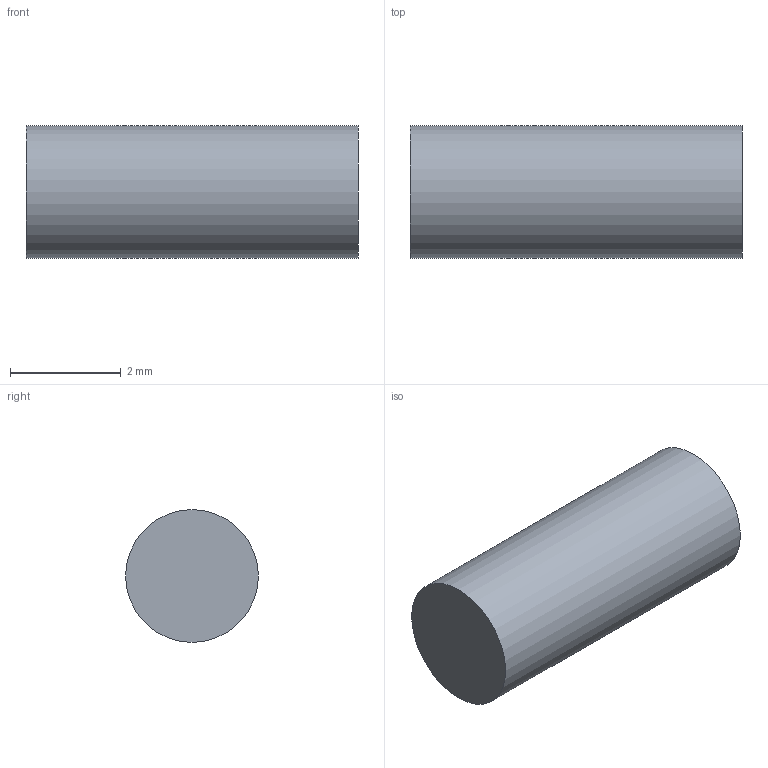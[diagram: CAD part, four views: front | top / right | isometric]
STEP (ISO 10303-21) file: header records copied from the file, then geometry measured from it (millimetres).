
FILE_DESCRIPTION(('Open CASCADE Model'),'2;1');
FILE_NAME('Open CASCADE Shape Model','2026-09-15T14:46:20',('Author'),( 'Open CASCADE'),'Open CASCADE STEP processor 7.7','Open CASCADE 7.7' ,'Unknown');
FILE_SCHEMA(('AUTOMOTIVE_DESIGN { 1 0 10303 214 1 1 1 1 }'));
Length unit declared in the file: millimetre
Products named in the file (1): J9_JOINT_VOLUP_THREE_WAY_COMMON_D2p4_ALLOWANCE
Bounding box: 6 x 2.4 x 2.4 mm (x, y, z)
Volume: 27.1 mm3; surface area: 54.3 mm2
Topology: 1 solids, 1 shells, 3 faces, 3 edges, 2 vertices
Faces by surface type: plane 2, cylinder 1
Full cylindrical faces by diameter (mm): 2.4 x1
Entity records: 108 total; most frequent: DIRECTION 19, CARTESIAN_POINT 15, AXIS2_PLACEMENT_3D 6, ORIENTED_EDGE 6, PCURVE 6, DEFINITIONAL_REPRESENTATION 6, LINE 5, VECTOR 5
